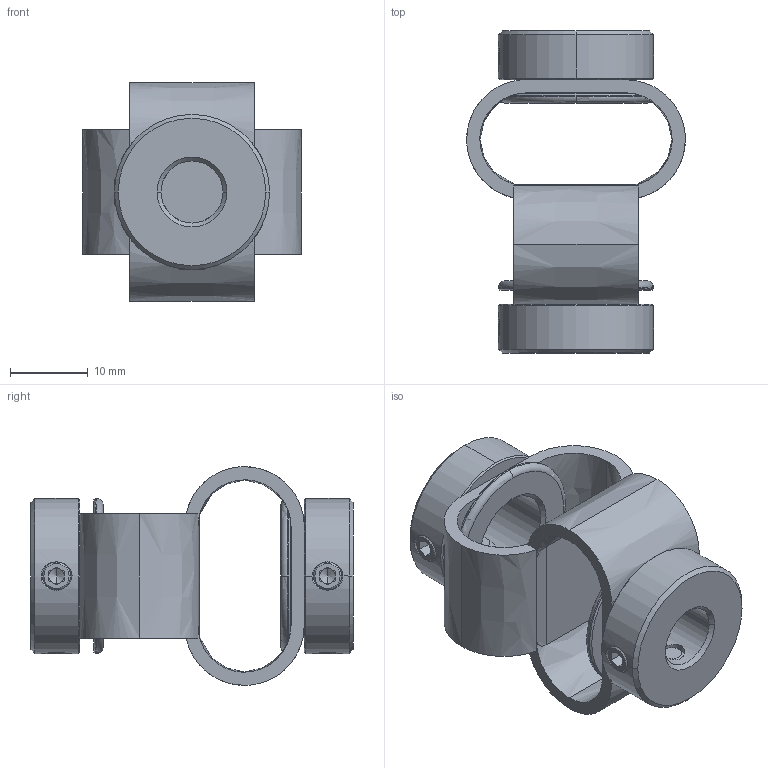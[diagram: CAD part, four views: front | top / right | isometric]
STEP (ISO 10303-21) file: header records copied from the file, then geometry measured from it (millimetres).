
FILE_DESCRIPTION (( 'STEP AP203' ), '1' );
FILE_NAME ('LS-D-D27L40-8-11.STEP', '2021-10-28T06:39:23', ( '' ), ( '' ), 'SwSTEP 2.0', 'SolidWorks 2018', '' );
FILE_SCHEMA (( 'CONFIG_CONTROL_DESIGN' ));
Length unit declared in the file: millimetre
Products named in the file (1): LS-D-D27L40-8-11
Bounding box: 28.2 x 41.54 x 28.2 mm (x, y, z)
Volume: 6542.7 mm3; surface area: 6687.3 mm2
Topology: 1 solids, 1 shells, 214 faces, 544 edges, 336 vertices
Faces by surface type: plane 86, cone 74, cylinder 34, bspline 16, torus 4
Entity records: 8395 total; most frequent: CARTESIAN_POINT 3331, ORIENTED_EDGE 1072, DIRECTION 990, EDGE_CURVE 536, AXIS2_PLACEMENT_3D 389, VERTEX_POINT 336, EDGE_LOOP 242, ADVANCED_FACE 214
